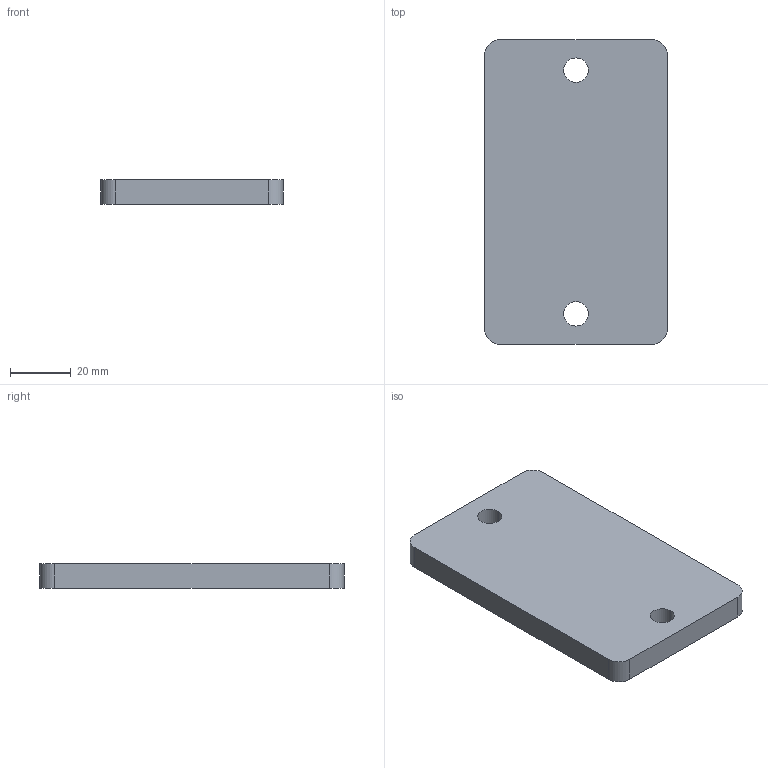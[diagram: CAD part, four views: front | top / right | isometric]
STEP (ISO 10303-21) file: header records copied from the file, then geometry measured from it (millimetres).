
FILE_DESCRIPTION(('CATIA V5 STEP Exchange'),'2;1');
FILE_NAME('C:\Users\gener\Documents\Lijadora Javitxu corte laser\soporte variador.stp','2022-08-29T05:47:52+00:00',('none'),('none'),'CATIA Version 5 Release 20 GA (IN-10)','CATIA V5 STEP AP203','none');
FILE_SCHEMA(('CONFIG_CONTROL_DESIGN'));
Length unit declared in the file: millimetre
Products named in the file (1): pletina soporte variador
Bounding box: 60 x 100 x 8 mm (x, y, z)
Volume: 47024.1 mm3; surface area: 14649.5 mm2
Topology: 1 solids, 1 shells, 14 faces, 36 edges, 24 vertices
Faces by surface type: cylinder 8, plane 6
Entity records: 460 total; most frequent: CARTESIAN_POINT 73, ORIENTED_EDGE 72, DIRECTION 60, EDGE_CURVE 36, AXIS2_PLACEMENT_3D 29, VERTEX_POINT 24, VECTOR 20, LINE 20
